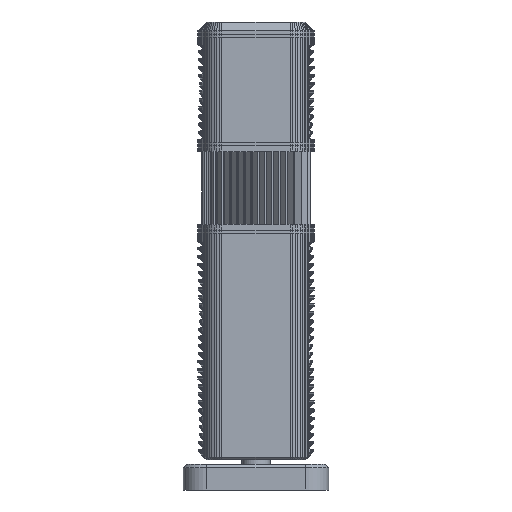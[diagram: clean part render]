
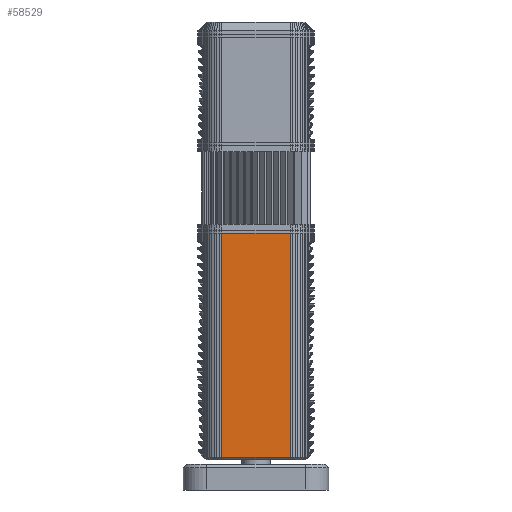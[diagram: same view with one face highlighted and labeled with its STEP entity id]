
A CAD part, left-side view. The second image highlights one B-rep face of the part: STEP entity #58529.
In plain terms, the highlighted planar face has unit normal (-1, 0, 0).
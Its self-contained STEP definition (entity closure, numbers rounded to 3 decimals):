
#28417 = PLANE('',#28418);
#28418 = AXIS2_PLACEMENT_3D('',#28419,#28420,#28421);
#28419 = CARTESIAN_POINT('',(50.,45.,219.));
#28420 = DIRECTION('',(0.,0.,1.));
#28421 = DIRECTION('',(-0.808,-0.589,0.));
#35401 = VERTEX_POINT('',#35402);
#35402 = CARTESIAN_POINT('',(-66.,29.,219.));
#35416 = PLANE('',#35417);
#35417 = AXIS2_PLACEMENT_3D('',#35418,#35419,#35420);
#35418 = CARTESIAN_POINT('',(-65.837,31.277,219.));
#35419 = DIRECTION('',(-0.997,0.071,0.));
#35420 = DIRECTION('',(-0.071,-0.997,0.));
#35428 = EDGE_CURVE('',#35401,#35429,#35431,.T.);
#35429 = VERTEX_POINT('',#35430);
#35430 = CARTESIAN_POINT('',(-66.,-29.,219.));
#35431 = SURFACE_CURVE('',#35432,(#35436,#35443),.PCURVE_S1.);
#35432 = LINE('',#35433,#35434);
#35433 = CARTESIAN_POINT('',(-66.,29.,219.));
#35434 = VECTOR('',#35435,1.);
#35435 = DIRECTION('',(0.,-1.,0.));
#35436 = PCURVE('',#28417,#35437);
#35437 = DEFINITIONAL_REPRESENTATION('',(#35438),#35442);
#35438 = LINE('',#35439,#35440);
#35439 = CARTESIAN_POINT('',(103.181,-55.368));
#35440 = VECTOR('',#35441,1.);
#35441 = DIRECTION('',(0.589,0.808));
#35442 = ( GEOMETRIC_REPRESENTATION_CONTEXT(2) 
PARAMETRIC_REPRESENTATION_CONTEXT() REPRESENTATION_CONTEXT('2D SPACE',''
  ) );
#35443 = PCURVE('',#35444,#35449);
#35444 = PLANE('',#35445);
#35445 = AXIS2_PLACEMENT_3D('',#35446,#35447,#35448);
#35446 = CARTESIAN_POINT('',(-66.,29.,219.));
#35447 = DIRECTION('',(-1.,0.,0.));
#35448 = DIRECTION('',(0.,-1.,0.));
#35449 = DEFINITIONAL_REPRESENTATION('',(#35450),#35454);
#35450 = LINE('',#35451,#35452);
#35451 = CARTESIAN_POINT('',(0.,0.));
#35452 = VECTOR('',#35453,1.);
#35453 = DIRECTION('',(1.,0.));
#35454 = ( GEOMETRIC_REPRESENTATION_CONTEXT(2) 
PARAMETRIC_REPRESENTATION_CONTEXT() REPRESENTATION_CONTEXT('2D SPACE',''
  ) );
#35472 = PLANE('',#35473);
#35473 = AXIS2_PLACEMENT_3D('',#35474,#35475,#35476);
#35474 = CARTESIAN_POINT('',(-66.,-29.,219.));
#35475 = DIRECTION('',(-0.997,-0.071,0.));
#35476 = DIRECTION('',(0.071,-0.997,0.));
#58482 = VERTEX_POINT('',#58483);
#58483 = CARTESIAN_POINT('',(-66.,29.,28.));
#58509 = EDGE_CURVE('',#58482,#35401,#58510,.T.);
#58510 = SURFACE_CURVE('',#58511,(#58515,#58522),.PCURVE_S1.);
#58511 = LINE('',#58512,#58513);
#58512 = CARTESIAN_POINT('',(-66.,29.,28.));
#58513 = VECTOR('',#58514,1.);
#58514 = DIRECTION('',(0.,0.,1.));
#58515 = PCURVE('',#35416,#58516);
#58516 = DEFINITIONAL_REPRESENTATION('',(#58517),#58521);
#58517 = LINE('',#58518,#58519);
#58518 = CARTESIAN_POINT('',(2.283,-191.));
#58519 = VECTOR('',#58520,1.);
#58520 = DIRECTION('',(0.,1.));
#58521 = ( GEOMETRIC_REPRESENTATION_CONTEXT(2) 
PARAMETRIC_REPRESENTATION_CONTEXT() REPRESENTATION_CONTEXT('2D SPACE',''
  ) );
#58522 = PCURVE('',#35444,#58523);
#58523 = DEFINITIONAL_REPRESENTATION('',(#58524),#58528);
#58524 = LINE('',#58525,#58526);
#58525 = CARTESIAN_POINT('',(0.,-191.));
#58526 = VECTOR('',#58527,1.);
#58527 = DIRECTION('',(0.,1.));
#58528 = ( GEOMETRIC_REPRESENTATION_CONTEXT(2) 
PARAMETRIC_REPRESENTATION_CONTEXT() REPRESENTATION_CONTEXT('2D SPACE',''
  ) );
#58529 = ADVANCED_FACE('',(#58530),#35444,.T.);
#58530 = FACE_BOUND('',#58531,.T.);
#58531 = EDGE_LOOP('',(#58532,#58533,#58534,#58562));
#58532 = ORIENTED_EDGE('',*,*,#35428,.F.);
#58533 = ORIENTED_EDGE('',*,*,#58509,.F.);
#58534 = ORIENTED_EDGE('',*,*,#58535,.T.);
#58535 = EDGE_CURVE('',#58482,#58536,#58538,.T.);
#58536 = VERTEX_POINT('',#58537);
#58537 = CARTESIAN_POINT('',(-66.,-29.,28.));
#58538 = SURFACE_CURVE('',#58539,(#58543,#58550),.PCURVE_S1.);
#58539 = LINE('',#58540,#58541);
#58540 = CARTESIAN_POINT('',(-66.,29.,28.));
#58541 = VECTOR('',#58542,1.);
#58542 = DIRECTION('',(0.,-1.,0.));
#58543 = PCURVE('',#35444,#58544);
#58544 = DEFINITIONAL_REPRESENTATION('',(#58545),#58549);
#58545 = LINE('',#58546,#58547);
#58546 = CARTESIAN_POINT('',(0.,-191.));
#58547 = VECTOR('',#58548,1.);
#58548 = DIRECTION('',(1.,0.));
#58549 = ( GEOMETRIC_REPRESENTATION_CONTEXT(2) 
PARAMETRIC_REPRESENTATION_CONTEXT() REPRESENTATION_CONTEXT('2D SPACE',''
  ) );
#58550 = PCURVE('',#58551,#58556);
#58551 = PLANE('',#58552);
#58552 = AXIS2_PLACEMENT_3D('',#58553,#58554,#58555);
#58553 = CARTESIAN_POINT('',(-66.,29.,28.));
#58554 = DIRECTION('',(-0.707,-0.,-0.707));
#58555 = DIRECTION('',(0.,-1.,0.));
#58556 = DEFINITIONAL_REPRESENTATION('',(#58557),#58561);
#58557 = LINE('',#58558,#58559);
#58558 = CARTESIAN_POINT('',(0.,0.));
#58559 = VECTOR('',#58560,1.);
#58560 = DIRECTION('',(1.,0.));
#58561 = ( GEOMETRIC_REPRESENTATION_CONTEXT(2) 
PARAMETRIC_REPRESENTATION_CONTEXT() REPRESENTATION_CONTEXT('2D SPACE',''
  ) );
#58562 = ORIENTED_EDGE('',*,*,#58563,.T.);
#58563 = EDGE_CURVE('',#58536,#35429,#58564,.T.);
#58564 = SURFACE_CURVE('',#58565,(#58569,#58576),.PCURVE_S1.);
#58565 = LINE('',#58566,#58567);
#58566 = CARTESIAN_POINT('',(-66.,-29.,28.));
#58567 = VECTOR('',#58568,1.);
#58568 = DIRECTION('',(0.,0.,1.));
#58569 = PCURVE('',#35444,#58570);
#58570 = DEFINITIONAL_REPRESENTATION('',(#58571),#58575);
#58571 = LINE('',#58572,#58573);
#58572 = CARTESIAN_POINT('',(58.,-191.));
#58573 = VECTOR('',#58574,1.);
#58574 = DIRECTION('',(0.,1.));
#58575 = ( GEOMETRIC_REPRESENTATION_CONTEXT(2) 
PARAMETRIC_REPRESENTATION_CONTEXT() REPRESENTATION_CONTEXT('2D SPACE',''
  ) );
#58576 = PCURVE('',#35472,#58577);
#58577 = DEFINITIONAL_REPRESENTATION('',(#58578),#58582);
#58578 = LINE('',#58579,#58580);
#58579 = CARTESIAN_POINT('',(0.,-191.));
#58580 = VECTOR('',#58581,1.);
#58581 = DIRECTION('',(0.,1.));
#58582 = ( GEOMETRIC_REPRESENTATION_CONTEXT(2) 
PARAMETRIC_REPRESENTATION_CONTEXT() REPRESENTATION_CONTEXT('2D SPACE',''
  ) );
